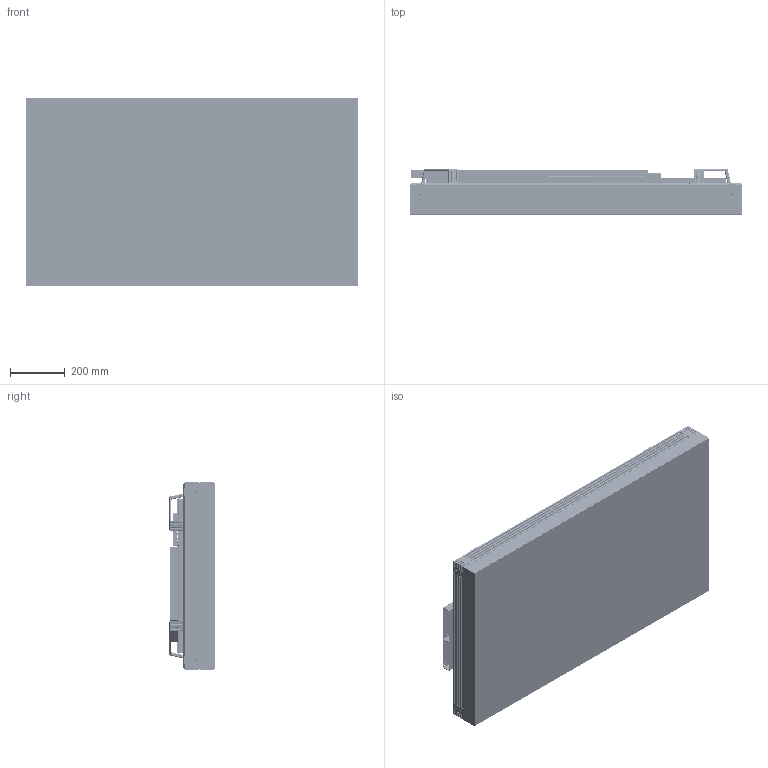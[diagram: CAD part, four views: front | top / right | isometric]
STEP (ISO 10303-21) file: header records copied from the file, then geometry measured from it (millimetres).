
FILE_DESCRIPTION (( 'STEP AP214' ), '1' );
FILE_NAME ('MT0901091-LWPR.STEP', '2018-10-08T12:20:50', ( '' ), ( '' ), 'SwSTEP 2.0', 'SolidWorks 2018', '' );
FILE_SCHEMA (( 'AUTOMOTIVE_DESIGN' ));
Length unit declared in the file: millimetre
Products named in the file (1): MT0901091-LWPR
Bounding box: 1214.44 x 165.14 x 685.24 mm (x, y, z)
Volume: 7050183.2 mm3; surface area: 6667950.7 mm2
Topology: 59 solids, 59 shells, 4371 faces, 11636 edges, 7416 vertices
Faces by surface type: plane 2360, cylinder 1614, bspline 218, cone 137, torus 42
Full cylindrical faces by diameter (mm): 2.05 x14, 2.5 x30, 3.2 x24, 3.3 x20, 3.4 x16, 4.2 x28, 4.5 x123, 5 x9, 5.4 x62, 5.41 x2, 5.5 x16, 6 x30, 6.4 x16, 6.8 x28, 7 x2, 7.5 x18, 8 x20, 8.5 x12, 9 x4, 10 x14, 10.5 x28, 12 x4
Entity records: 189888 total; most frequent: CARTESIAN_POINT 36743, ORIENTED_EDGE 21544, DIRECTION 21323, EDGE_CURVE 10772, AXIS2_PLACEMENT_3D 7248, VERTEX_POINT 7201, VECTOR 6827, LINE 6827
